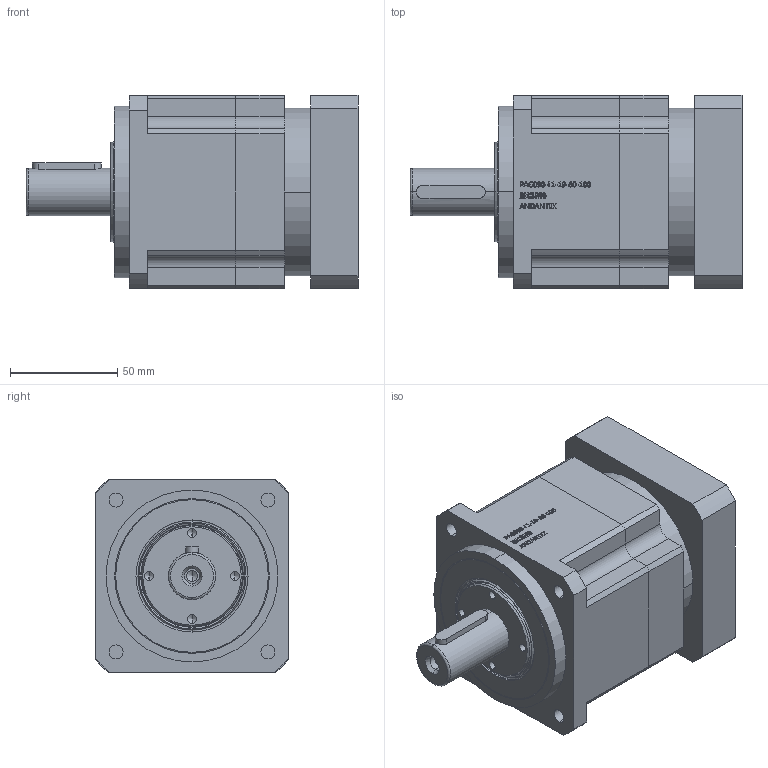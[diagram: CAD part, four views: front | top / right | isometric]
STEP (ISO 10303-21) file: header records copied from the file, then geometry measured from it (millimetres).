
FILE_DESCRIPTION (( 'STEP AP203' ), '1' );
FILE_NAME ('PAG090-L1-19-80-100.STEP', '2022-07-18T07:52:06', ( 'Windows User' ), ( 'P R C' ), 'SwSTEP 2.0', 'SolidWorks 2016', '' );
FILE_SCHEMA (( 'CONFIG_CONTROL_DESIGN' ));
Length unit declared in the file: millimetre
Products named in the file (7): 奻裔啣; PAG90-狟裔; 油封範本 TC 72x50x8_TC-34.9-55-7; 内六角圆柱头螺钉M6×16; A倰す瑩 6x6x32; PAG090 珨撰蟀諉啣 90選 080x5 100xM6 25L; PAG090-L1-19-80-100
Assembly tree (6 placements, depth 2):
  PAG090-L1-19-80-100
    奻裔啣
    PAG90-狟裔
    油封範本 TC 72x50x8_TC-34.9-55-7
    内六角圆柱头螺钉M6×16
    A倰す瑩 6x6x32
    PAG090 珨撰蟀諉啣 90選 080x5 100xM6 25L
Bounding box: 154.5 x 90 x 90 mm (x, y, z)
Volume: 721866.1 mm3; surface area: 122325.4 mm2
Topology: 6 solids, 6 shells, 856 faces, 2217 edges, 1453 vertices
Faces by surface type: plane 480, bspline 168, cylinder 152, cone 36, torus 20
Entity records: 35049 total; most frequent: CARTESIAN_POINT 14218, ORIENTED_EDGE 4394, DIRECTION 3618, EDGE_CURVE 2197, VECTOR 1476, LINE 1476, VERTEX_POINT 1453, AXIS2_PLACEMENT_3D 1071
